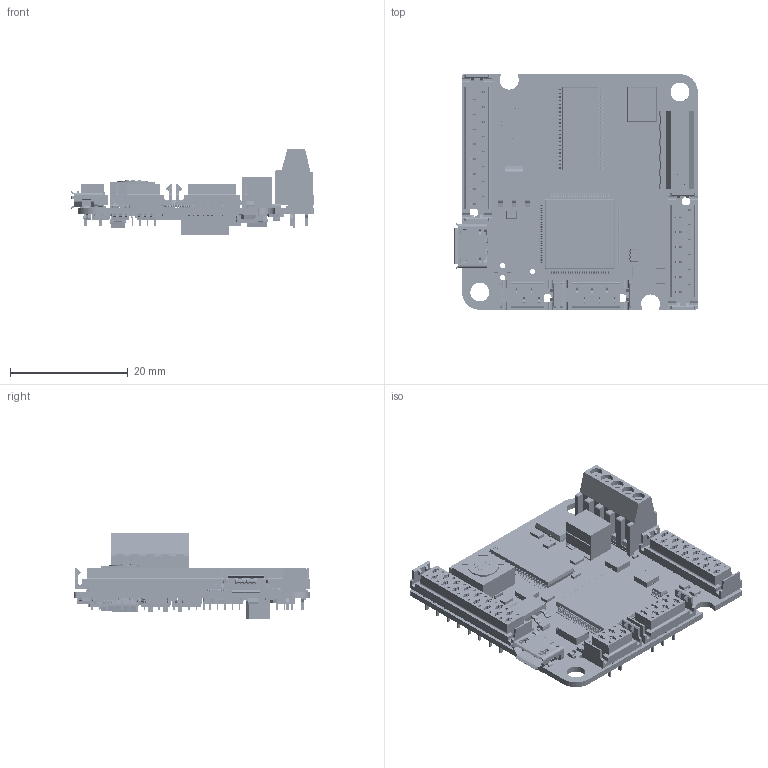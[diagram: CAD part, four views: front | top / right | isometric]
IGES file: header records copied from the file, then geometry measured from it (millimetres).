
Start section: SolidWorks IGES file using analytic representation for surfaces
Global section: file name: C:\Users\abolet\Desktop\i032-01H1(BASIC_VARIANT).IGS; native system: SolidWorks 2014; preprocessor: SolidWorks 2014; author: abolet; date: 150521.155051; units: millimetre
Bounding box: 41.34 x 40.02 x 14.66 mm (x, y, z)
Surface area: 10173.2 mm2 (no closed solid volume)
Topology: 0 solids, 0 shells, 13048 faces, 78992 edges, 78755 vertices
Faces by surface type: bspline 10192, revolution 2856
